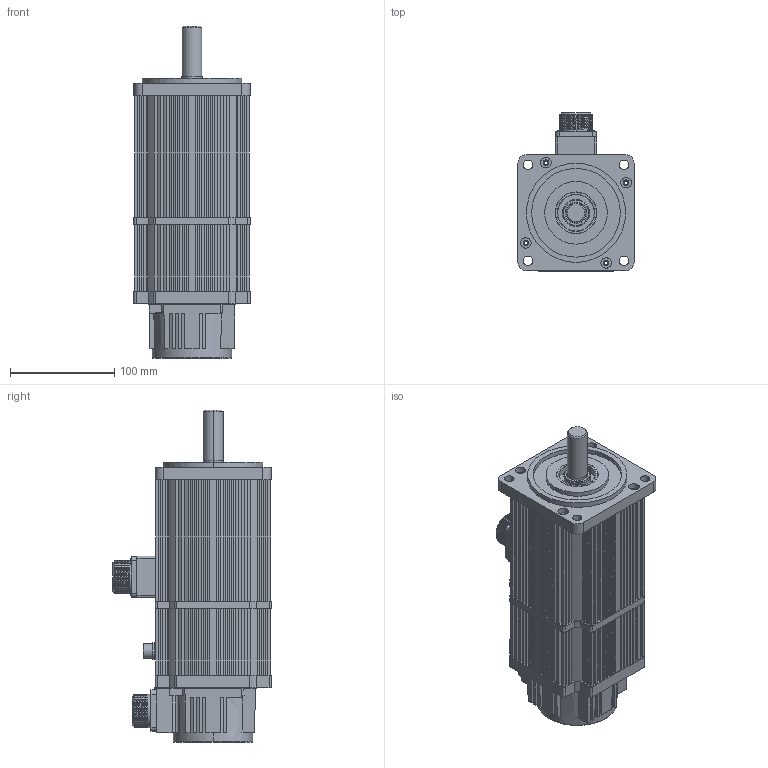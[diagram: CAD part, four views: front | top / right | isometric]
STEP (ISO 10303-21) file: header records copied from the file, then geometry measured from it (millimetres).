
FILE_DESCRIPTION (( 'STEP AP203' ), '1' );
FILE_NAME ('110电磁抱闸4N.M.STEP', '2017-02-22T00:32:13', ( '中国系统网V16.0' ), ( '中国系统网V16.0' ), 'SwSTEP 2.0', 'SolidWorks 2014', '' );
FILE_SCHEMA (( 'CONFIG_CONTROL_DESIGN' ));
Length unit declared in the file: millimetre
Products named in the file (14): 110綴欶砎蝶菜; 110儂褲(4NM); 110綴欶; 110ヶ傷裔; 110晤鎢ん脣芛; 粣創6304ㄗ110炵蹈ㄘ; 110瑤船; 110蛌粣; 80三芯航插（永磁抱闸）; 110蚐猾; 110萇棠惕掅4N.M; 110綴傷裔; 110儂褲(惕掅); 110綴傷裔惕掅
Assembly tree (13 placements, depth 2):
  110萇棠惕掅4N.M
    110儂褲(4NM)
    110ヶ傷裔
    粣創6304ㄗ110炵蹈ㄘ
    110蛌粣
    110蚐猾
    110綴傷裔
    110儂褲(惕掅)
    110綴傷裔惕掅
    110綴欶砎蝶菜
    110綴欶
    110晤鎢ん脣芛
    110瑤船
    80三芯航插（永磁抱闸）
Bounding box: 111.2 x 151.6 x 318 mm (x, y, z)
Volume: 960448.9 mm3; surface area: 471683.1 mm2
Topology: 16 solids, 16 shells, 1453 faces, 4163 edges, 2737 vertices
Faces by surface type: plane 757, cylinder 531, sphere 81, torus 42, cone 40, bspline 2
Entity records: 52381 total; most frequent: CARTESIAN_POINT 13829, ORIENTED_EDGE 7816, DIRECTION 7671, EDGE_CURVE 3908, AXIS2_PLACEMENT_3D 2630, VERTEX_POINT 2581, LINE 2411, VECTOR 2411
